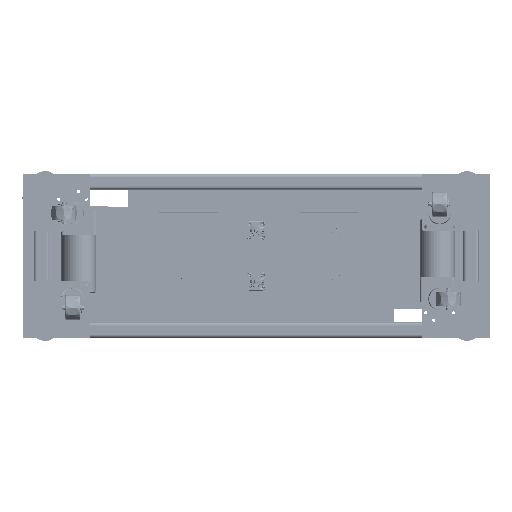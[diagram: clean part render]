
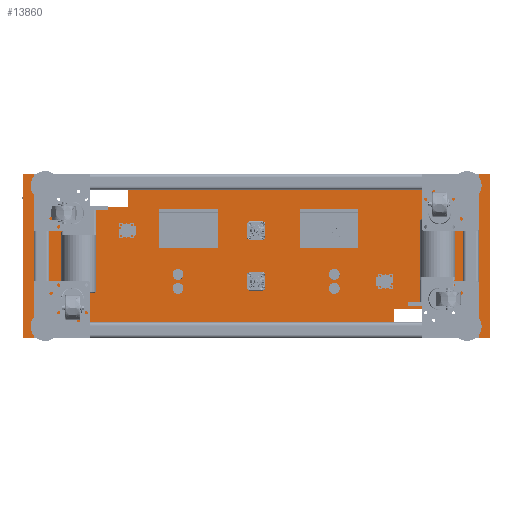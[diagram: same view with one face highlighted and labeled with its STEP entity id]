
A CAD part, front view. The second image highlights one B-rep face of the part: STEP entity #13860.
In plain terms, the highlighted planar face has unit normal (0, -1, 0).
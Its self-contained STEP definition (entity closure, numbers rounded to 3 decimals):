
#6871=PLANE('',#74844);
#7883=FACE_BOUND('',#22780,.T.);
#7884=FACE_BOUND('',#22781,.T.);
#7885=FACE_BOUND('',#22782,.T.);
#7886=FACE_BOUND('',#22783,.T.);
#7887=FACE_BOUND('',#22784,.T.);
#13860=ADVANCED_FACE('',(#7883,#7884,#7885,#7886,#7887),#6871,.F.);
#22780=EDGE_LOOP('',(#49122,#49123,#49124,#49125));
#22781=EDGE_LOOP('',(#49126,#49127,#49128,#49129));
#22782=EDGE_LOOP('',(#49130,#49131,#49132,#49133));
#22783=EDGE_LOOP('',(#49134,#49135,#49136,#49137));
#22784=EDGE_LOOP('',(#49138,#49139,#49140,#49141));
#27069=LINE('',#121486,#31944);
#27070=LINE('',#121489,#31945);
#27071=LINE('',#121491,#31946);
#27072=LINE('',#121493,#31947);
#27073=LINE('',#121494,#31948);
#27074=LINE('',#121497,#31949);
#27075=LINE('',#121499,#31950);
#27076=LINE('',#121501,#31951);
#27077=LINE('',#121502,#31952);
#27078=LINE('',#121505,#31953);
#27079=LINE('',#121507,#31954);
#27080=LINE('',#121509,#31955);
#27081=LINE('',#121510,#31956);
#27082=LINE('',#121513,#31957);
#27083=LINE('',#121515,#31958);
#27084=LINE('',#121517,#31959);
#27085=LINE('',#121518,#31960);
#27086=LINE('',#121521,#31961);
#27087=LINE('',#121523,#31962);
#27088=LINE('',#121525,#31963);
#31944=VECTOR('',#91656,1.);
#31945=VECTOR('',#91657,1.);
#31946=VECTOR('',#91658,1.);
#31947=VECTOR('',#91659,1.);
#31948=VECTOR('',#91660,1.);
#31949=VECTOR('',#91661,1.);
#31950=VECTOR('',#91662,1.);
#31951=VECTOR('',#91663,1.);
#31952=VECTOR('',#91664,1.);
#31953=VECTOR('',#91665,1.);
#31954=VECTOR('',#91666,1.);
#31955=VECTOR('',#91667,1.);
#31956=VECTOR('',#91668,1.);
#31957=VECTOR('',#91669,1.);
#31958=VECTOR('',#91670,1.);
#31959=VECTOR('',#91671,1.);
#31960=VECTOR('',#91672,1.);
#31961=VECTOR('',#91673,1.);
#31962=VECTOR('',#91674,1.);
#31963=VECTOR('',#91675,1.);
#49122=ORIENTED_EDGE('',*,*,#65011,.T.);
#49123=ORIENTED_EDGE('',*,*,#65012,.T.);
#49124=ORIENTED_EDGE('',*,*,#65013,.T.);
#49125=ORIENTED_EDGE('',*,*,#65014,.T.);
#49126=ORIENTED_EDGE('',*,*,#65015,.T.);
#49127=ORIENTED_EDGE('',*,*,#65016,.T.);
#49128=ORIENTED_EDGE('',*,*,#65017,.T.);
#49129=ORIENTED_EDGE('',*,*,#65018,.T.);
#49130=ORIENTED_EDGE('',*,*,#65019,.F.);
#49131=ORIENTED_EDGE('',*,*,#65020,.F.);
#49132=ORIENTED_EDGE('',*,*,#65021,.F.);
#49133=ORIENTED_EDGE('',*,*,#65022,.F.);
#49134=ORIENTED_EDGE('',*,*,#65023,.T.);
#49135=ORIENTED_EDGE('',*,*,#65024,.T.);
#49136=ORIENTED_EDGE('',*,*,#65025,.T.);
#49137=ORIENTED_EDGE('',*,*,#65026,.T.);
#49138=ORIENTED_EDGE('',*,*,#65027,.T.);
#49139=ORIENTED_EDGE('',*,*,#65028,.T.);
#49140=ORIENTED_EDGE('',*,*,#65029,.T.);
#49141=ORIENTED_EDGE('',*,*,#65030,.T.);
#56154=VERTEX_POINT('',#121487);
#56155=VERTEX_POINT('',#121488);
#56156=VERTEX_POINT('',#121490);
#56157=VERTEX_POINT('',#121492);
#56158=VERTEX_POINT('',#121495);
#56159=VERTEX_POINT('',#121496);
#56160=VERTEX_POINT('',#121498);
#56161=VERTEX_POINT('',#121500);
#56162=VERTEX_POINT('',#121503);
#56163=VERTEX_POINT('',#121504);
#56164=VERTEX_POINT('',#121506);
#56165=VERTEX_POINT('',#121508);
#56166=VERTEX_POINT('',#121511);
#56167=VERTEX_POINT('',#121512);
#56168=VERTEX_POINT('',#121514);
#56169=VERTEX_POINT('',#121516);
#56170=VERTEX_POINT('',#121519);
#56171=VERTEX_POINT('',#121520);
#56172=VERTEX_POINT('',#121522);
#56173=VERTEX_POINT('',#121524);
#65011=EDGE_CURVE('',#56154,#56155,#27069,.T.);
#65012=EDGE_CURVE('',#56155,#56156,#27070,.T.);
#65013=EDGE_CURVE('',#56156,#56157,#27071,.T.);
#65014=EDGE_CURVE('',#56157,#56154,#27072,.T.);
#65015=EDGE_CURVE('',#56158,#56159,#27073,.T.);
#65016=EDGE_CURVE('',#56159,#56160,#27074,.T.);
#65017=EDGE_CURVE('',#56160,#56161,#27075,.T.);
#65018=EDGE_CURVE('',#56161,#56158,#27076,.T.);
#65019=EDGE_CURVE('',#56162,#56163,#27077,.T.);
#65020=EDGE_CURVE('',#56164,#56162,#27078,.T.);
#65021=EDGE_CURVE('',#56165,#56164,#27079,.T.);
#65022=EDGE_CURVE('',#56163,#56165,#27080,.T.);
#65023=EDGE_CURVE('',#56166,#56167,#27081,.T.);
#65024=EDGE_CURVE('',#56167,#56168,#27082,.T.);
#65025=EDGE_CURVE('',#56168,#56169,#27083,.T.);
#65026=EDGE_CURVE('',#56169,#56166,#27084,.T.);
#65027=EDGE_CURVE('',#56170,#56171,#27085,.T.);
#65028=EDGE_CURVE('',#56171,#56172,#27086,.T.);
#65029=EDGE_CURVE('',#56172,#56173,#27087,.T.);
#65030=EDGE_CURVE('',#56173,#56170,#27088,.T.);
#74844=AXIS2_PLACEMENT_3D('',#121526,#91676,#91677);
#91656=DIRECTION('',(0.,0.,1.));
#91657=DIRECTION('',(1.,0.,0.));
#91658=DIRECTION('',(0.,0.,-1.));
#91659=DIRECTION('',(-1.,0.,0.));
#91660=DIRECTION('',(0.,0.,1.));
#91661=DIRECTION('',(1.,0.,0.));
#91662=DIRECTION('',(0.,0.,-1.));
#91663=DIRECTION('',(-1.,0.,0.));
#91664=DIRECTION('',(0.,0.,1.));
#91665=DIRECTION('',(-1.,0.,0.));
#91666=DIRECTION('',(0.,0.,-1.));
#91667=DIRECTION('',(1.,0.,0.));
#91668=DIRECTION('',(0.,0.,1.));
#91669=DIRECTION('',(1.,0.,0.));
#91670=DIRECTION('',(0.,0.,-1.));
#91671=DIRECTION('',(-1.,0.,0.));
#91672=DIRECTION('',(0.,0.,1.));
#91673=DIRECTION('',(1.,0.,0.));
#91674=DIRECTION('',(0.,0.,-1.));
#91675=DIRECTION('',(-1.,0.,0.));
#91676=DIRECTION('',(0.,1.,0.));
#91677=DIRECTION('',(0.,0.,-1.));
#121486=CARTESIAN_POINT('',(950.,0.,-380.));
#121487=CARTESIAN_POINT('',(950.,0.,-380.));
#121488=CARTESIAN_POINT('',(950.,0.,-345.));
#121489=CARTESIAN_POINT('',(950.,0.,-345.));
#121490=CARTESIAN_POINT('',(1130.,0.,-345.));
#121491=CARTESIAN_POINT('',(1130.,0.,-380.));
#121492=CARTESIAN_POINT('',(1130.,0.,-380.));
#121493=CARTESIAN_POINT('',(950.,0.,-380.));
#121494=CARTESIAN_POINT('',(70.,0.,-85.));
#121495=CARTESIAN_POINT('',(70.,0.,-85.));
#121496=CARTESIAN_POINT('',(70.,0.,-40.));
#121497=CARTESIAN_POINT('',(70.,0.,-40.));
#121498=CARTESIAN_POINT('',(270.,0.,-40.));
#121499=CARTESIAN_POINT('',(270.,0.,-85.));
#121500=CARTESIAN_POINT('',(270.,0.,-85.));
#121501=CARTESIAN_POINT('',(70.,0.,-85.));
#121502=CARTESIAN_POINT('',(0.,0.,-420.));
#121503=CARTESIAN_POINT('',(0.,0.,-420.));
#121504=CARTESIAN_POINT('',(0.,0.,0.));
#121505=CARTESIAN_POINT('',(0.,0.,-420.));
#121506=CARTESIAN_POINT('',(1196.,0.,-420.));
#121507=CARTESIAN_POINT('',(1196.,0.,-420.));
#121508=CARTESIAN_POINT('',(1196.,0.,0.));
#121509=CARTESIAN_POINT('',(0.,0.,0.));
#121510=CARTESIAN_POINT('',(350.,0.,-190.));
#121511=CARTESIAN_POINT('',(350.,0.,-190.));
#121512=CARTESIAN_POINT('',(350.,0.,-90.));
#121513=CARTESIAN_POINT('',(350.,0.,-90.));
#121514=CARTESIAN_POINT('',(500.,0.,-90.));
#121515=CARTESIAN_POINT('',(500.,0.,-190.));
#121516=CARTESIAN_POINT('',(500.,0.,-190.));
#121517=CARTESIAN_POINT('',(350.,0.,-190.));
#121518=CARTESIAN_POINT('',(710.,0.,-90.));
#121519=CARTESIAN_POINT('',(710.,0.,-190.));
#121520=CARTESIAN_POINT('',(710.,0.,-90.));
#121521=CARTESIAN_POINT('',(710.,0.,-90.));
#121522=CARTESIAN_POINT('',(860.,0.,-90.));
#121523=CARTESIAN_POINT('',(860.,0.,-90.));
#121524=CARTESIAN_POINT('',(860.,0.,-190.));
#121525=CARTESIAN_POINT('',(710.,0.,-190.));
#121526=CARTESIAN_POINT('',(0.,0.,0.));
